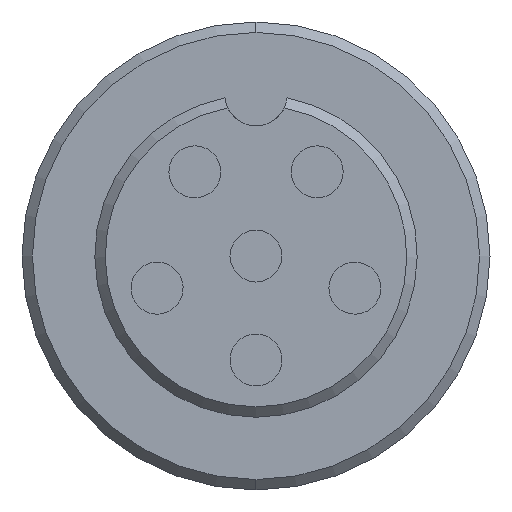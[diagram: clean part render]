
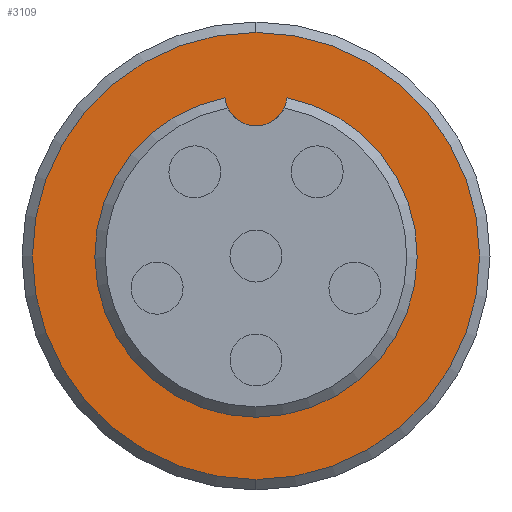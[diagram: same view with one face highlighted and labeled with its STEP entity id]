
A CAD part, left-side view. The second image highlights one B-rep face of the part: STEP entity #3109.
In plain terms, the highlighted planar face has unit normal (-1, 0, 0) as drawn and (1, 0, 0) by its records, which use the part's own axes.
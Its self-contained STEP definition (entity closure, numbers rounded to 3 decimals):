
#1005=CARTESIAN_POINT('',(24.,0.,7.75));
#1006=DIRECTION('',(1.,0.,0.));
#1007=DIRECTION('',(0.,-0.995,-0.097));
#1008=AXIS2_PLACEMENT_3D('',#1005,#1006,#1007);
#1010=CARTESIAN_POINT('',(24.,0.,0.));
#1011=DIRECTION('',(-1.,0.,0.));
#1012=DIRECTION('',(0.,0.,-1.));
#1013=AXIS2_PLACEMENT_3D('',#1010,#1011,#1012);
#1015=CARTESIAN_POINT('',(24.,0.,0.));
#1016=DIRECTION('',(-1.,0.,0.));
#1017=DIRECTION('',(0.,0.,1.));
#1018=AXIS2_PLACEMENT_3D('',#1015,#1016,#1017);
#1024=CARTESIAN_POINT('',(24.,0.,0.));
#1025=DIRECTION('',(-1.,0.,0.));
#1026=DIRECTION('',(0.,0.193,0.981));
#1027=AXIS2_PLACEMENT_3D('',#1024,#1025,#1026);
#1284=CARTESIAN_POINT('',(24.,-1.493,7.605));
#1285=CARTESIAN_POINT('',(24.,1.493,7.605));
#1286=VERTEX_POINT('',#1284);
#1287=VERTEX_POINT('',#1285);
#1316=CARTESIAN_POINT('',(24.,0.,-10.75));
#1317=CARTESIAN_POINT('',(24.,0.,10.75));
#1318=VERTEX_POINT('',#1316);
#1319=VERTEX_POINT('',#1317);
#3094=CARTESIAN_POINT('',(24.,0.,0.));
#3095=DIRECTION('',(1.,0.,0.));
#3096=DIRECTION('',(0.,0.,-1.));
#3097=AXIS2_PLACEMENT_3D('',#3094,#3095,#3096);
#3098=PLANE('',#3097);
#3099=ORIENTED_EDGE('',*,*,#3074,.T.);
#3100=ORIENTED_EDGE('',*,*,#3088,.T.);
#3101=EDGE_LOOP('',(#3099,#3100));
#3102=FACE_OUTER_BOUND('',#3101,.F.);
#3104=ORIENTED_EDGE('',*,*,#3103,.F.);
#3106=ORIENTED_EDGE('',*,*,#3105,.F.);
#3107=EDGE_LOOP('',(#3104,#3106));
#3108=FACE_BOUND('',#3107,.F.);
#1009=CIRCLE('',#1008,1.5);
#1014=CIRCLE('',#1013,10.75);
#1019=CIRCLE('',#1018,10.75);
#1028=CIRCLE('',#1027,7.75);
#3074=EDGE_CURVE('',#1318,#1319,#1014,.T.);
#3088=EDGE_CURVE('',#1319,#1318,#1019,.T.);
#3103=EDGE_CURVE('',#1287,#1286,#1028,.T.);
#3105=EDGE_CURVE('',#1286,#1287,#1009,.T.);
#3109=ADVANCED_FACE('',(#3102,#3108),#3098,.T.);
